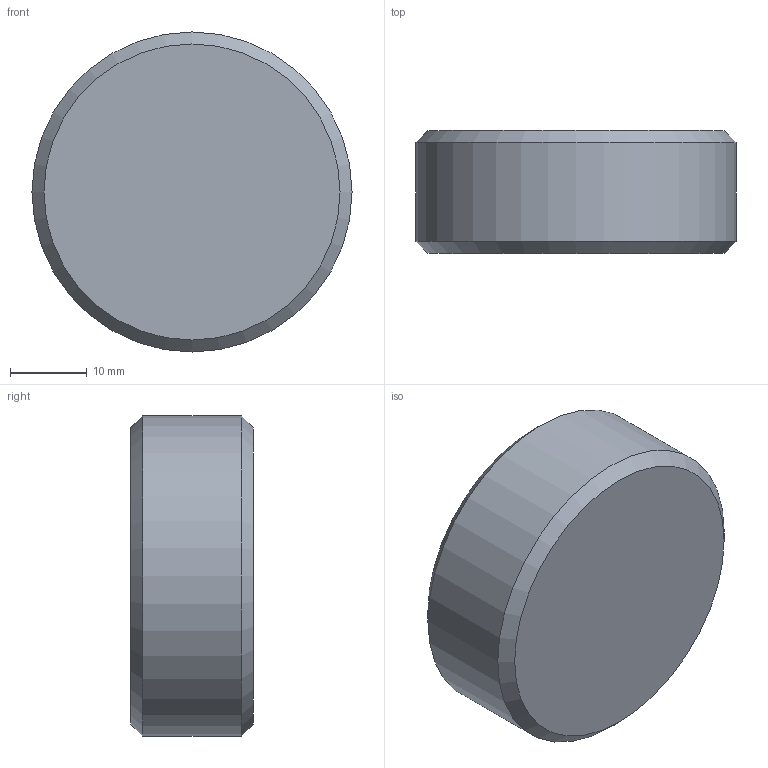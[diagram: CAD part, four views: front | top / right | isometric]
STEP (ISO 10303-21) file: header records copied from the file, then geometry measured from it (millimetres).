
FILE_DESCRIPTION(/* description */ (''),/* implementation_level */ '2;1');
FILE_NAME(/* name */ 'C:/Users/drich/Desktop/cad/Plugs/BSPT Pipe Plugs/Stainless Steel/SSF-BSPT-1-1_4 v1.step',/* time_stamp */ '2020-01-10T13:04:11-06:00',/* author */ (''),/* organization */ (''),/* preprocessor_version */ 'ST-DEVELOPER v18',/* originating_system */ 'Autodesk Translation Framework v8.12.0.6',/* authorisation */ '');
FILE_SCHEMA (('AUTOMOTIVE_DESIGN { 1 0 10303 214 3 1 1 }'));
Length unit declared in the file: inch
Products named in the file (1): SSF-BSPT-1-1_4
Bounding box: 41.73 x 16 x 41.73 mm (x, y, z)
Volume: 17920.5 mm3; surface area: 5293.5 mm2
Topology: 1 solids, 1 shells, 13 faces, 35 edges, 25 vertices
Faces by surface type: plane 9, cone 3, cylinder 1
Full cylindrical faces by diameter (mm): 41.73 x1
Entity records: 439 total; most frequent: CARTESIAN_POINT 98, ORIENTED_EDGE 70, DIRECTION 58, EDGE_CURVE 35, VERTEX_POINT 25, AXIS2_PLACEMENT_3D 21, LINE 16, VECTOR 16
